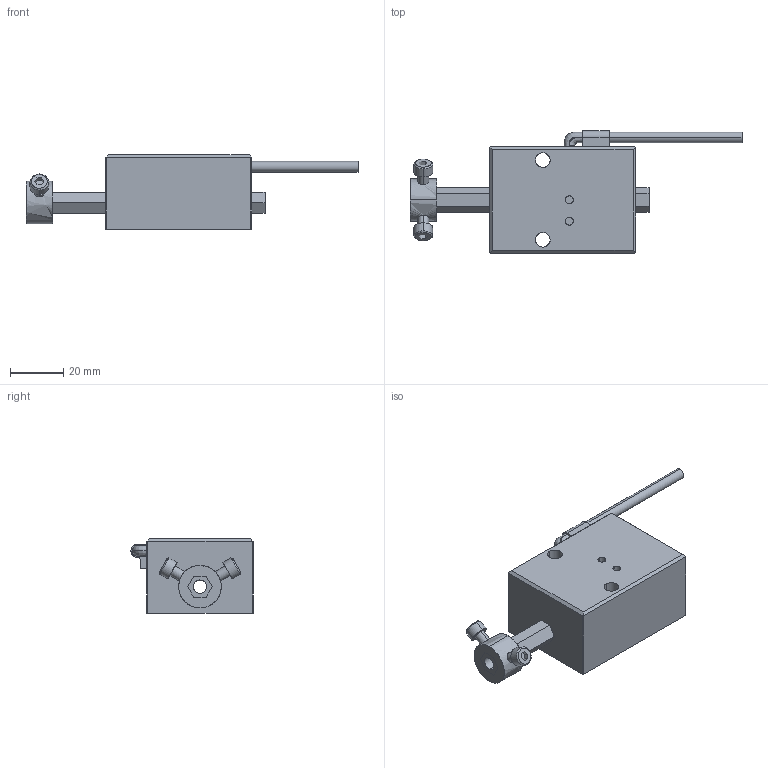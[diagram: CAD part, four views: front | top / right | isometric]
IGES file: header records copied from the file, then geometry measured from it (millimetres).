
Global section: file name: E:\UnigraphicsGraphicData\MISUMI_PRESS-PARTS\IGES\3d_mgun20_04585_r00.igs; native system: NX V5.0; preprocessor: UGS NX IGES V5.0; author: MISUMI; date: 20110105.161446; units: millimetre
Bounding box: 125 x 46 x 28 mm (x, y, z)
Surface area: 15501.9 mm2 (no closed solid volume)
Topology: 0 solids, 0 shells, 111 faces, 749 edges, 749 vertices
Faces by surface type: bspline 111
